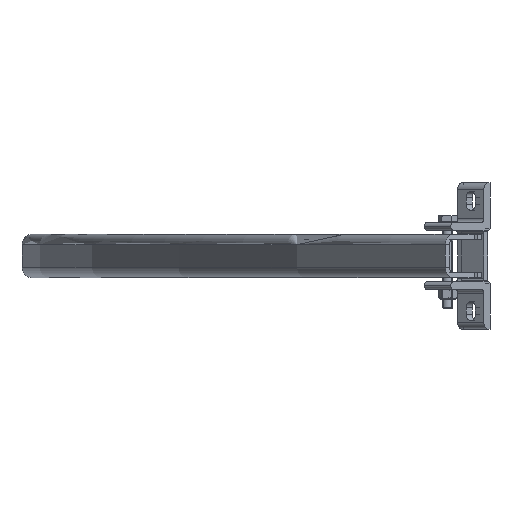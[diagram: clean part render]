
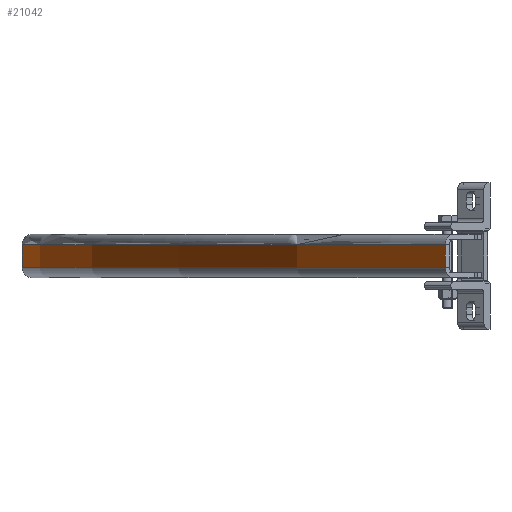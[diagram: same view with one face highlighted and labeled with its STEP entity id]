
A CAD part, front view. The second image highlights one B-rep face of the part: STEP entity #21042.
In plain terms, the highlighted cylindrical face has radius 1026 mm (diameter 2052 mm), a partial arc.
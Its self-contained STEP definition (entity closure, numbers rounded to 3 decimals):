
#155 = ORIENTED_EDGE ( 'NONE', *, *, #4609, .T. ) ;
#2207 = CARTESIAN_POINT ( 'NONE',  ( -12.625, 245.823, 666.334 ) ) ;
#2363 = DIRECTION ( 'NONE',  ( 0., 0., 1. ) ) ;
#2649 = EDGE_CURVE ( 'NONE', #23650, #40765, #36337, .T. ) ;
#4609 = EDGE_CURVE ( 'NONE', #31507, #6876, #36192, .T. ) ;
#4840 = CARTESIAN_POINT ( 'NONE',  ( 6.625, 1026., 0. ) ) ;
#5122 = ORIENTED_EDGE ( 'NONE', *, *, #42679, .T. ) ;
#6876 = VERTEX_POINT ( 'NONE', #13007 ) ;
#9391 = DIRECTION ( 'NONE',  ( 1., 0., 0. ) ) ;
#10313 = LINE ( 'NONE', #42734, #12000 ) ;
#12000 = VECTOR ( 'NONE', #19422, 1000. ) ;
#12009 = DIRECTION ( 'NONE',  ( 1., 0., 0. ) ) ;
#13007 = CARTESIAN_POINT ( 'NONE',  ( -6.625, 245.823, -666.334 ) ) ;
#13970 = DIRECTION ( 'NONE',  ( -1., 0., 0. ) ) ;
#14504 = VECTOR ( 'NONE', #12009, 1000. ) ;
#15002 = EDGE_CURVE ( 'NONE', #31507, #40765, #31034, .T. ) ;
#15076 = AXIS2_PLACEMENT_3D ( 'NONE', #19497, #25206, #30801 ) ;
#17608 = CARTESIAN_POINT ( 'NONE',  ( 6.625, 245.823, 666.334 ) ) ;
#19422 = DIRECTION ( 'NONE',  ( 1., 0., 0. ) ) ;
#19497 = CARTESIAN_POINT ( 'NONE',  ( -12.625, 1026., 0. ) ) ;
#20225 = ORIENTED_EDGE ( 'NONE', *, *, #15002, .F. ) ;
#21042 = ADVANCED_FACE ( 'NONE', ( #23795 ), #28035, .T. ) ;
#23650 = VERTEX_POINT ( 'NONE', #37946 ) ;
#23795 = FACE_OUTER_BOUND ( 'NONE', #37116, .T. ) ;
#25206 = DIRECTION ( 'NONE',  ( -1., 0., 0. ) ) ;
#26125 = ORIENTED_EDGE ( 'NONE', *, *, #2649, .T. ) ;
#28035 = CYLINDRICAL_SURFACE ( 'NONE', #15076, 1026. ) ;
#28592 = AXIS2_PLACEMENT_3D ( 'NONE', #4840, #13970, #30851 ) ;
#30801 = DIRECTION ( 'NONE',  ( 0., 0., 1. ) ) ;
#30851 = DIRECTION ( 'NONE',  ( 0., 0., -1. ) ) ;
#31034 = LINE ( 'NONE', #2207, #14504 ) ;
#31507 = VERTEX_POINT ( 'NONE', #39192 ) ;
#36192 = CIRCLE ( 'NONE', #37585, 1026. ) ;
#36337 = CIRCLE ( 'NONE', #28592, 1026. ) ;
#37116 = EDGE_LOOP ( 'NONE', ( #20225, #155, #5122, #26125 ) ) ;
#37585 = AXIS2_PLACEMENT_3D ( 'NONE', #40372, #9391, #2363 ) ;
#37946 = CARTESIAN_POINT ( 'NONE',  ( 6.625, 245.823, -666.334 ) ) ;
#39192 = CARTESIAN_POINT ( 'NONE',  ( -6.625, 245.823, 666.334 ) ) ;
#40372 = CARTESIAN_POINT ( 'NONE',  ( -6.625, 1026., 0. ) ) ;
#40765 = VERTEX_POINT ( 'NONE', #17608 ) ;
#42679 = EDGE_CURVE ( 'NONE', #6876, #23650, #10313, .T. ) ;
#42734 = CARTESIAN_POINT ( 'NONE',  ( -12.625, 245.823, -666.334 ) ) ;
